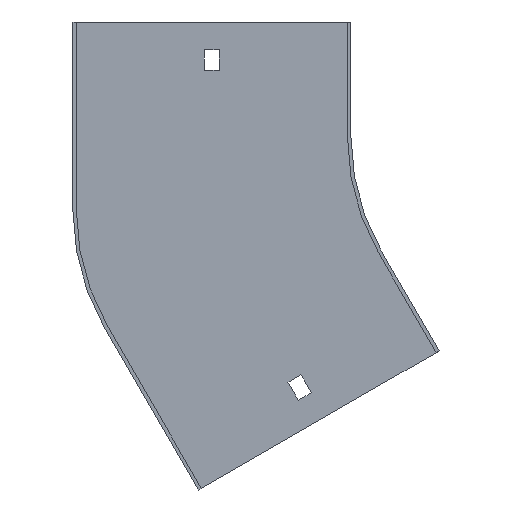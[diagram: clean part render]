
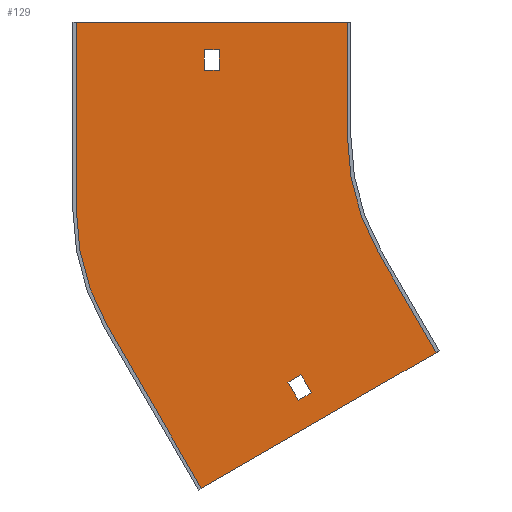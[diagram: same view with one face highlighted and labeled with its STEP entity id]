
A CAD part, front view. The second image highlights one B-rep face of the part: STEP entity #129.
In plain terms, the highlighted planar face has unit normal (0, -1, 0).
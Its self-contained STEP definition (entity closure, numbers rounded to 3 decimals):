
#1 = CARTESIAN_POINT ( 'NONE',  ( -162., -1.5, 0. ) ) ;
#5 = VERTEX_POINT ( 'NONE', #32 ) ;
#7 = DIRECTION ( 'NONE',  ( 0., 0., 1. ) ) ;
#12 = EDGE_LOOP ( 'NONE', ( #745, #427, #485, #407 ) ) ;
#22 = CARTESIAN_POINT ( 'NONE',  ( -120.167, -1.5, -102.865 ) ) ;
#31 = CARTESIAN_POINT ( 'NONE',  ( 14.5, -1.5, -25.115 ) ) ;
#32 = CARTESIAN_POINT ( 'NONE',  ( -217.5, -1.5, -31.484 ) ) ;
#42 = EDGE_CURVE ( 'NONE', #123, #711, #694, .T. ) ;
#60 = CIRCLE ( 'NONE', #613, 100. ) ;
#68 = VERTEX_POINT ( 'NONE', #426 ) ;
#69 = VECTOR ( 'NONE', #606, 1000. ) ;
#74 = EDGE_CURVE ( 'NONE', #211, #791, #566, .T. ) ;
#75 = ORIENTED_EDGE ( 'NONE', *, *, #386, .F. ) ;
#82 = LINE ( 'NONE', #31, #327 ) ;
#95 = ORIENTED_EDGE ( 'NONE', *, *, #656, .F. ) ;
#99 = VERTEX_POINT ( 'NONE', #22 ) ;
#102 = DIRECTION ( 'NONE',  ( 0., 0., -1. ) ) ;
#109 = DIRECTION ( 'NONE',  ( 0.866, 0., 0.5 ) ) ;
#117 = LINE ( 'NONE', #778, #851 ) ;
#122 = CARTESIAN_POINT ( 'NONE',  ( -163.361, -1.5, -152.051 ) ) ;
#123 = VERTEX_POINT ( 'NONE', #686 ) ;
#125 = CARTESIAN_POINT ( 'NONE',  ( -163.361, -1.5, -152.051 ) ) ;
#126 = VERTEX_POINT ( 'NONE', #149 ) ;
#128 = AXIS2_PLACEMENT_3D ( 'NONE', #380, #162, #102 ) ;
#129 = ADVANCED_FACE ( 'NONE', ( #768, #714, #659 ), #452, .T. ) ;
#133 = DIRECTION ( 'NONE',  ( 0., 1., 0. ) ) ;
#134 = LINE ( 'NONE', #805, #267 ) ;
#135 = CARTESIAN_POINT ( 'NONE',  ( -61.603, -1.5, -93.301 ) ) ;
#139 = VERTEX_POINT ( 'NONE', #772 ) ;
#140 = CARTESIAN_POINT ( 'NONE',  ( 0., -1.5, 38. ) ) ;
#149 = CARTESIAN_POINT ( 'NONE',  ( -121.296, -1.5, -113.909 ) ) ;
#153 = CARTESIAN_POINT ( 'NONE',  ( -100., -1.5, 0. ) ) ;
#162 = DIRECTION ( 'NONE',  ( 0., -1., 0. ) ) ;
#171 = LINE ( 'NONE', #847, #698 ) ;
#184 = CARTESIAN_POINT ( 'NONE',  ( -219., -1.5, 50. ) ) ;
#188 = DIRECTION ( 'NONE',  ( 1., 0., 0. ) ) ;
#193 = CARTESIAN_POINT ( 'NONE',  ( -117.5, -1.5, -31.484 ) ) ;
#197 = VECTOR ( 'NONE', #309, 1000. ) ;
#207 = CARTESIAN_POINT ( 'NONE',  ( -217.5, -1.5, -31.484 ) ) ;
#211 = VERTEX_POINT ( 'NONE', #584 ) ;
#219 = EDGE_CURVE ( 'NONE', #736, #126, #574, .T. ) ;
#223 = EDGE_CURVE ( 'NONE', #791, #346, #117, .T. ) ;
#225 = CARTESIAN_POINT ( 'NONE',  ( -86.603, -1.5, -50. ) ) ;
#258 = VECTOR ( 'NONE', #638, 1000. ) ;
#259 = EDGE_CURVE ( 'NONE', #303, #5, #60, .T. ) ;
#261 = DIRECTION ( 'NONE',  ( 0., 0., -1. ) ) ;
#264 = EDGE_CURVE ( 'NONE', #346, #303, #530, .T. ) ;
#267 = VECTOR ( 'NONE', #439, 1000. ) ;
#269 = ORIENTED_EDGE ( 'NONE', *, *, #74, .F. ) ;
#270 = CARTESIAN_POINT ( 'NONE',  ( 0., -1.5, 29. ) ) ;
#273 = EDGE_LOOP ( 'NONE', ( #287, #800, #780, #345, #498, #269, #95, #719 ) ) ;
#284 = VERTEX_POINT ( 'NONE', #537 ) ;
#285 = EDGE_CURVE ( 'NONE', #139, #381, #334, .T. ) ;
#287 = ORIENTED_EDGE ( 'NONE', *, *, #325, .F. ) ;
#303 = VERTEX_POINT ( 'NONE', #408 ) ;
#309 = DIRECTION ( 'NONE',  ( 0.5, 0., -0.866 ) ) ;
#312 = ORIENTED_EDGE ( 'NONE', *, *, #604, .F. ) ;
#325 = EDGE_CURVE ( 'NONE', #284, #631, #786, .T. ) ;
#327 = VECTOR ( 'NONE', #348, 1000. ) ;
#332 = CARTESIAN_POINT ( 'NONE',  ( -100., -1.5, 50. ) ) ;
#334 = LINE ( 'NONE', #1, #444 ) ;
#338 = VECTOR ( 'NONE', #699, 1000. ) ;
#339 = CIRCLE ( 'NONE', #737, 100. ) ;
#345 = ORIENTED_EDGE ( 'NONE', *, *, #264, .F. ) ;
#346 = VERTEX_POINT ( 'NONE', #122 ) ;
#348 = DIRECTION ( 'NONE',  ( -0.866, 0., -0.5 ) ) ;
#354 = CARTESIAN_POINT ( 'NONE',  ( -162., -1.5, 38. ) ) ;
#363 = DIRECTION ( 'NONE',  ( 0., -1., 0. ) ) ;
#378 = EDGE_CURVE ( 'NONE', #631, #692, #862, .T. ) ;
#380 = CARTESIAN_POINT ( 'NONE',  ( 0., -1.5, 0. ) ) ;
#381 = VERTEX_POINT ( 'NONE', #354 ) ;
#384 = VECTOR ( 'NONE', #502, 1000. ) ;
#386 = EDGE_CURVE ( 'NONE', #99, #736, #82, .T. ) ;
#396 = ORIENTED_EDGE ( 'NONE', *, *, #480, .F. ) ;
#407 = ORIENTED_EDGE ( 'NONE', *, *, #285, .T. ) ;
#408 = CARTESIAN_POINT ( 'NONE',  ( -204.103, -1.5, -81.484 ) ) ;
#412 = DIRECTION ( 'NONE',  ( 1., 0., 0. ) ) ;
#418 = EDGE_CURVE ( 'NONE', #711, #139, #836, .T. ) ;
#419 = CARTESIAN_POINT ( 'NONE',  ( 0., -1.5, 0. ) ) ;
#426 = CARTESIAN_POINT ( 'NONE',  ( -115.667, -1.5, -110.659 ) ) ;
#427 = ORIENTED_EDGE ( 'NONE', *, *, #42, .T. ) ;
#439 = DIRECTION ( 'NONE',  ( -0.5, 0., 0.866 ) ) ;
#444 = VECTOR ( 'NONE', #472, 1000. ) ;
#452 = PLANE ( 'NONE',  #128 ) ;
#472 = DIRECTION ( 'NONE',  ( 0., 0., 1. ) ) ;
#480 = EDGE_CURVE ( 'NONE', #126, #68, #171, .T. ) ;
#485 = ORIENTED_EDGE ( 'NONE', *, *, #418, .T. ) ;
#498 = ORIENTED_EDGE ( 'NONE', *, *, #223, .F. ) ;
#502 = DIRECTION ( 'NONE',  ( 0., 0., -1. ) ) ;
#523 = CARTESIAN_POINT ( 'NONE',  ( -155.5, -1.5, 29. ) ) ;
#530 = LINE ( 'NONE', #125, #69 ) ;
#537 = CARTESIAN_POINT ( 'NONE',  ( -217.5, -1.5, 50. ) ) ;
#541 = VECTOR ( 'NONE', #412, 1000. ) ;
#548 = DIRECTION ( 'NONE',  ( -1., 0., 0. ) ) ;
#566 = LINE ( 'NONE', #225, #258 ) ;
#567 = EDGE_CURVE ( 'NONE', #5, #284, #743, .T. ) ;
#574 = LINE ( 'NONE', #649, #197 ) ;
#577 = CARTESIAN_POINT ( 'NONE',  ( -100., -1.5, 50. ) ) ;
#584 = CARTESIAN_POINT ( 'NONE',  ( -86.603, -1.5, -50. ) ) ;
#589 = EDGE_LOOP ( 'NONE', ( #312, #396, #596, #75 ) ) ;
#596 = ORIENTED_EDGE ( 'NONE', *, *, #219, .F. ) ;
#604 = EDGE_CURVE ( 'NONE', #68, #99, #134, .T. ) ;
#606 = DIRECTION ( 'NONE',  ( -0.5, 0., 0.866 ) ) ;
#613 = AXIS2_PLACEMENT_3D ( 'NONE', #193, #133, #261 ) ;
#631 = VERTEX_POINT ( 'NONE', #577 ) ;
#638 = DIRECTION ( 'NONE',  ( 0.5, 0., -0.866 ) ) ;
#649 = CARTESIAN_POINT ( 'NONE',  ( -140.296, -1.5, -81. ) ) ;
#656 = EDGE_CURVE ( 'NONE', #692, #211, #339, .T. ) ;
#659 = FACE_BOUND ( 'NONE', #12, .T. ) ;
#686 = CARTESIAN_POINT ( 'NONE',  ( -155.5, -1.5, 38. ) ) ;
#692 = VERTEX_POINT ( 'NONE', #153 ) ;
#694 = LINE ( 'NONE', #827, #384 ) ;
#698 = VECTOR ( 'NONE', #109, 1000. ) ;
#699 = DIRECTION ( 'NONE',  ( 0., 0., -1. ) ) ;
#703 = DIRECTION ( 'NONE',  ( 0., 0., -1. ) ) ;
#711 = VERTEX_POINT ( 'NONE', #523 ) ;
#714 = FACE_OUTER_BOUND ( 'NONE', #273, .T. ) ;
#719 = ORIENTED_EDGE ( 'NONE', *, *, #378, .F. ) ;
#721 = CARTESIAN_POINT ( 'NONE',  ( -125.796, -1.5, -106.115 ) ) ;
#735 = VECTOR ( 'NONE', #548, 1000. ) ;
#736 = VERTEX_POINT ( 'NONE', #721 ) ;
#737 = AXIS2_PLACEMENT_3D ( 'NONE', #419, #363, #703 ) ;
#743 = LINE ( 'NONE', #207, #760 ) ;
#745 = ORIENTED_EDGE ( 'NONE', *, *, #804, .T. ) ;
#760 = VECTOR ( 'NONE', #7, 1000. ) ;
#768 = FACE_BOUND ( 'NONE', #589, .T. ) ;
#770 = VECTOR ( 'NONE', #188, 1000. ) ;
#772 = CARTESIAN_POINT ( 'NONE',  ( -162., -1.5, 29. ) ) ;
#778 = CARTESIAN_POINT ( 'NONE',  ( -60.304, -1.5, -92.551 ) ) ;
#780 = ORIENTED_EDGE ( 'NONE', *, *, #259, .F. ) ;
#786 = LINE ( 'NONE', #184, #770 ) ;
#791 = VERTEX_POINT ( 'NONE', #135 ) ;
#800 = ORIENTED_EDGE ( 'NONE', *, *, #567, .F. ) ;
#804 = EDGE_CURVE ( 'NONE', #381, #123, #808, .T. ) ;
#805 = CARTESIAN_POINT ( 'NONE',  ( -134.667, -1.5, -77.75 ) ) ;
#808 = LINE ( 'NONE', #140, #541 ) ;
#827 = CARTESIAN_POINT ( 'NONE',  ( -155.5, -1.5, 0. ) ) ;
#836 = LINE ( 'NONE', #270, #735 ) ;
#843 = DIRECTION ( 'NONE',  ( -0.866, 0., -0.5 ) ) ;
#847 = CARTESIAN_POINT ( 'NONE',  ( 19., -1.5, -32.909 ) ) ;
#851 = VECTOR ( 'NONE', #843, 1000. ) ;
#862 = LINE ( 'NONE', #332, #338 ) ;
